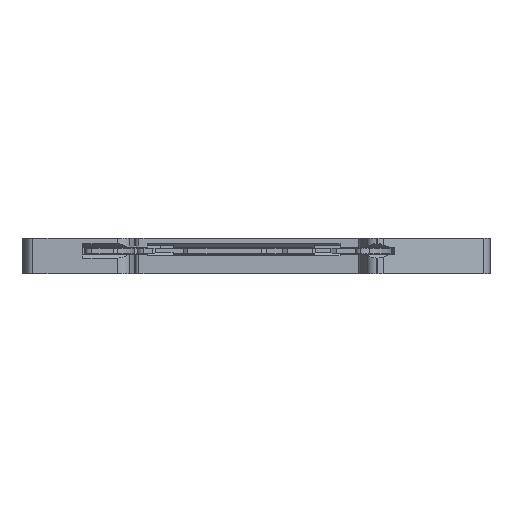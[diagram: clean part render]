
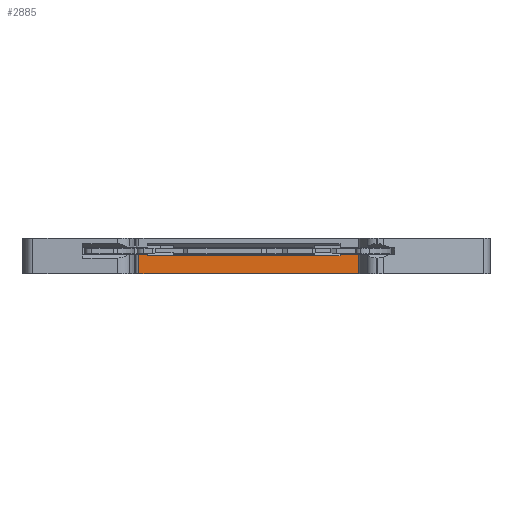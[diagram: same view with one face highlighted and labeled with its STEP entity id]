
A CAD part, front view. The second image highlights one B-rep face of the part: STEP entity #2885.
In plain terms, the highlighted planar face has unit normal (0, -1, 0).
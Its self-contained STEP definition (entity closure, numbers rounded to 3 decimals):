
#2885=ADVANCED_FACE('',(#5052),#3858,.T.);
#3858=PLANE('',#28633);
#5052=FACE_OUTER_BOUND('',#6469,.T.);
#6469=EDGE_LOOP('',(#12754,#12755,#12756,#12757,#12758,#12759,#12760,#12761));
#12754=ORIENTED_EDGE('',*,*,#20538,.F.);
#12755=ORIENTED_EDGE('',*,*,#20451,.F.);
#12756=ORIENTED_EDGE('',*,*,#20539,.F.);
#12757=ORIENTED_EDGE('',*,*,#20202,.F.);
#12758=ORIENTED_EDGE('',*,*,#20537,.F.);
#12759=ORIENTED_EDGE('',*,*,#17638,.T.);
#12760=ORIENTED_EDGE('',*,*,#20540,.F.);
#12761=ORIENTED_EDGE('',*,*,#20212,.F.);
#15042=VERTEX_POINT('',#37421);
#15043=VERTEX_POINT('',#37423);
#16796=VERTEX_POINT('',#44212);
#16797=VERTEX_POINT('',#44214);
#16806=VERTEX_POINT('',#44232);
#16807=VERTEX_POINT('',#44234);
#16968=VERTEX_POINT('',#44710);
#16969=VERTEX_POINT('',#44712);
#17638=EDGE_CURVE('',#15043,#15042,#21490,.T.);
#20202=EDGE_CURVE('',#16796,#16797,#23184,.T.);
#20212=EDGE_CURVE('',#16806,#16807,#23194,.T.);
#20451=EDGE_CURVE('',#16968,#16969,#23370,.T.);
#20537=EDGE_CURVE('',#15043,#16796,#23452,.T.);
#20538=EDGE_CURVE('',#16969,#16806,#23453,.T.);
#20539=EDGE_CURVE('',#16797,#16968,#23454,.T.);
#20540=EDGE_CURVE('',#16807,#15042,#23455,.T.);
#21490=LINE('',#37422,#24222);
#23184=LINE('',#44213,#25920);
#23194=LINE('',#44233,#25930);
#23370=LINE('',#44711,#26106);
#23452=LINE('',#44874,#26188);
#23453=LINE('',#44876,#26189);
#23454=LINE('',#44877,#26190);
#23455=LINE('',#44878,#26191);
#24222=VECTOR('',#29652,1.);
#25920=VECTOR('',#34394,1.);
#25930=VECTOR('',#34404,1.);
#26106=VECTOR('',#34852,1.);
#26188=VECTOR('',#35070,1.);
#26189=VECTOR('',#35073,1.);
#26190=VECTOR('',#35074,1.);
#26191=VECTOR('',#35075,1.);
#28633=AXIS2_PLACEMENT_3D('',#44879,#35076,#35077);
#29652=DIRECTION('',(1.,0.,0.));
#34394=DIRECTION('',(1.,0.,0.));
#34404=DIRECTION('',(1.,0.,0.));
#34852=DIRECTION('',(1.,0.,0.));
#35070=DIRECTION('',(0.,0.,1.));
#35073=DIRECTION('',(0.,0.,1.));
#35074=DIRECTION('',(0.,0.,-1.));
#35075=DIRECTION('',(0.,0.,-1.));
#35076=DIRECTION('',(0.,-1.,0.));
#35077=DIRECTION('',(1.,0.,0.));
#37421=CARTESIAN_POINT('',(50.128,6.173,-5.2));
#37422=CARTESIAN_POINT('',(17.097,6.173,-5.2));
#37423=CARTESIAN_POINT('',(17.097,6.173,-5.2));
#44212=CARTESIAN_POINT('',(17.097,6.173,-2.4));
#44213=CARTESIAN_POINT('',(17.097,6.173,-2.4));
#44214=CARTESIAN_POINT('',(18.277,6.173,-2.4));
#44232=CARTESIAN_POINT('',(46.477,6.173,-2.4));
#44233=CARTESIAN_POINT('',(46.477,6.173,-2.4));
#44234=CARTESIAN_POINT('',(50.128,6.173,-2.4));
#44710=CARTESIAN_POINT('',(18.277,6.173,-2.6));
#44711=CARTESIAN_POINT('',(18.277,6.173,-2.6));
#44712=CARTESIAN_POINT('',(46.477,6.173,-2.6));
#44874=CARTESIAN_POINT('',(17.097,6.173,-5.2));
#44876=CARTESIAN_POINT('',(46.477,6.173,-2.6));
#44877=CARTESIAN_POINT('',(18.277,6.173,-2.4));
#44878=CARTESIAN_POINT('',(50.128,6.173,-2.4));
#44879=CARTESIAN_POINT('',(16.234,6.173,-5.308));
